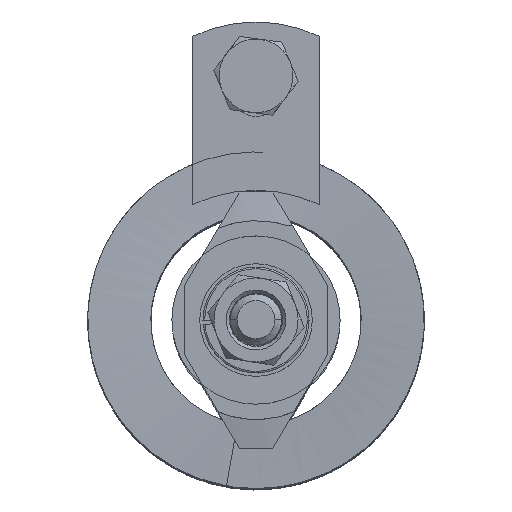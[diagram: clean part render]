
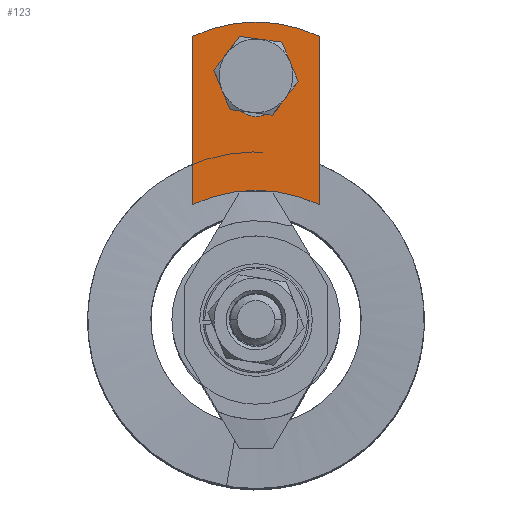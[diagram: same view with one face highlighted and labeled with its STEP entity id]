
A CAD part, top view. The second image highlights one B-rep face of the part: STEP entity #123.
In plain terms, the highlighted planar face has unit normal (0, 0, 1).
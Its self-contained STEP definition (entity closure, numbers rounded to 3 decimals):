
#123 = ADVANCED_FACE ( 'NONE', ( #3071, #3094 ), #67987, .T. ) ;
#639 = CARTESIAN_POINT ( 'NONE',  ( 16.905, -9.525, 0. ) ) ;
#677 = CARTESIAN_POINT ( 'NONE',  ( 10.914, 3.373, 0. ) ) ;
#768 = CARTESIAN_POINT ( 'NONE',  ( 14.287, 0., 0. ) ) ;
#781 = CARTESIAN_POINT ( 'NONE',  ( -6.35, 0., 0. ) ) ;
#1641 = VERTEX_POINT ( 'NONE', #639 ) ;
#1670 = VERTEX_POINT ( 'NONE', #677 ) ;
#1761 = VERTEX_POINT ( 'NONE', #768 ) ;
#1774 = VERTEX_POINT ( 'NONE', #781 ) ;
#3071 = FACE_BOUND ( 'NONE', #66176, .T. ) ;
#3094 = FACE_OUTER_BOUND ( 'NONE', #66241, .T. ) ;
#5561 = AXIS2_PLACEMENT_3D ( 'NONE', #31321, #31322, #31323 ) ;
#5563 = AXIS2_PLACEMENT_3D ( 'NONE', #31332, #31333, #31334 ) ;
#5565 = AXIS2_PLACEMENT_3D ( 'NONE', #31344, #31345, #31346 ) ;
#5570 = AXIS2_PLACEMENT_3D ( 'NONE', #31379, #31380, #31381 ) ;
#5571 = AXIS2_PLACEMENT_3D ( 'NONE', #31385, #31386, #31387 ) ;
#5572 = AXIS2_PLACEMENT_3D ( 'NONE', #31423, #31425, #31427 ) ;
#5573 = AXIS2_PLACEMENT_3D ( 'NONE', #31435, #31437, #31439 ) ;
#9263 = AXIS2_PLACEMENT_3D ( 'NONE', #67986, #67993, #67995 ) ;
#10862 = ORIENTED_EDGE ( 'NONE', *, *, #26784, .T. ) ;
#11024 = ORIENTED_EDGE ( 'NONE', *, *, #26847, .T. ) ;
#11030 = ORIENTED_EDGE ( 'NONE', *, *, #26802, .T. ) ;
#11034 = ORIENTED_EDGE ( 'NONE', *, *, #26844, .T. ) ;
#11052 = ORIENTED_EDGE ( 'NONE', *, *, #26833, .T. ) ;
#11058 = ORIENTED_EDGE ( 'NONE', *, *, #26793, .T. ) ;
#11059 = ORIENTED_EDGE ( 'NONE', *, *, #26828, .T. ) ;
#11182 = ORIENTED_EDGE ( 'NONE', *, *, #26830, .T. ) ;
#11208 = ORIENTED_EDGE ( 'NONE', *, *, #26842, .T. ) ;
#12042 = ORIENTED_EDGE ( 'NONE', *, *, #26826, .T. ) ;
#26784 = EDGE_CURVE ( 'NONE', #30011, #1774, #28621, .T. ) ;
#26793 = EDGE_CURVE ( 'NONE', #1670, #1761, #28632, .T. ) ;
#26802 = EDGE_CURVE ( 'NONE', #1641, #30029, #28645, .T. ) ;
#26826 = EDGE_CURVE ( 'NONE', #29982, #1670, #28673, .T. ) ;
#26828 = EDGE_CURVE ( 'NONE', #1761, #29988, #28682, .T. ) ;
#26830 = EDGE_CURVE ( 'NONE', #29988, #30004, #28686, .T. ) ;
#26833 = EDGE_CURVE ( 'NONE', #30004, #29982, #28688, .T. ) ;
#26835 = EDGE_CURVE ( 'NONE', #30051, #30011, #28693, .T. ) ;
#26842 = EDGE_CURVE ( 'NONE', #1774, #29983, #28680, .T. ) ;
#26844 = EDGE_CURVE ( 'NONE', #29983, #1641, #28698, .T. ) ;
#26847 = EDGE_CURVE ( 'NONE', #30029, #30051, #28702, .T. ) ;
#28621 = CIRCLE ( 'NONE', #5561, 22.225 ) ;
#28632 = CIRCLE ( 'NONE', #5563, 3.373 ) ;
#28645 = CIRCLE ( 'NONE', #5565, 22.225 ) ;
#28673 = LINE ( 'NONE', #31371, #28684 ) ;
#28680 = CIRCLE ( 'NONE', #5572, 22.225 ) ;
#28682 = CIRCLE ( 'NONE', #5570, 3.373 ) ;
#28684 = VECTOR ( 'NONE', #31364, 1000. ) ;
#28686 = LINE ( 'NONE', #31370, #28690 ) ;
#28688 = CIRCLE ( 'NONE', #5571, 3.373 ) ;
#28690 = VECTOR ( 'NONE', #31369, 1000. ) ;
#28693 = LINE ( 'NONE', #31376, #28696 ) ;
#28696 = VECTOR ( 'NONE', #31377, 1000. ) ;
#28698 = LINE ( 'NONE', #31396, #28705 ) ;
#28702 = CIRCLE ( 'NONE', #5573, 22.225 ) ;
#28705 = VECTOR ( 'NONE', #31399, 1000. ) ;
#29982 = VERTEX_POINT ( 'NONE', #51586 ) ;
#29983 = VERTEX_POINT ( 'NONE', #51588 ) ;
#29988 = VERTEX_POINT ( 'NONE', #51598 ) ;
#30004 = VERTEX_POINT ( 'NONE', #51630 ) ;
#30011 = VERTEX_POINT ( 'NONE', #51644 ) ;
#30029 = VERTEX_POINT ( 'NONE', #51680 ) ;
#30051 = VERTEX_POINT ( 'NONE', #51724 ) ;
#31321 = CARTESIAN_POINT ( 'NONE',  ( -28.575, 0., 0. ) ) ;
#31322 = DIRECTION ( 'NONE',  ( 0., 0., -1. ) ) ;
#31323 = DIRECTION ( 'NONE',  ( 1., 0., 0. ) ) ;
#31332 = CARTESIAN_POINT ( 'NONE',  ( 10.914, 0., 0. ) ) ;
#31333 = DIRECTION ( 'NONE',  ( 0., 0., -1. ) ) ;
#31334 = DIRECTION ( 'NONE',  ( 1., 0., 0. ) ) ;
#31344 = CARTESIAN_POINT ( 'NONE',  ( -3.175, 0., 0. ) ) ;
#31345 = DIRECTION ( 'NONE',  ( 0., 0., 1. ) ) ;
#31346 = DIRECTION ( 'NONE',  ( 1., 0., 0. ) ) ;
#31364 = DIRECTION ( 'NONE',  ( 1., 0., 0. ) ) ;
#31369 = DIRECTION ( 'NONE',  ( -1., 0., 0. ) ) ;
#31370 = CARTESIAN_POINT ( 'NONE',  ( 0., -3.373, 0. ) ) ;
#31371 = CARTESIAN_POINT ( 'NONE',  ( 0., 3.373, 0. ) ) ;
#31376 = CARTESIAN_POINT ( 'NONE',  ( 19.05, 9.525, 0. ) ) ;
#31377 = DIRECTION ( 'NONE',  ( -1., 0., 0. ) ) ;
#31379 = CARTESIAN_POINT ( 'NONE',  ( 10.914, 0., 0. ) ) ;
#31380 = DIRECTION ( 'NONE',  ( 0., 0., -1. ) ) ;
#31381 = DIRECTION ( 'NONE',  ( 1., 0., 0. ) ) ;
#31385 = CARTESIAN_POINT ( 'NONE',  ( 8.136, 0., 0. ) ) ;
#31386 = DIRECTION ( 'NONE',  ( 0., 0., -1. ) ) ;
#31387 = DIRECTION ( 'NONE',  ( 1., 0., 0. ) ) ;
#31396 = CARTESIAN_POINT ( 'NONE',  ( 19.05, -9.525, 0. ) ) ;
#31399 = DIRECTION ( 'NONE',  ( 1., 0., 0. ) ) ;
#31423 = CARTESIAN_POINT ( 'NONE',  ( -28.575, 0., 0. ) ) ;
#31425 = DIRECTION ( 'NONE',  ( 0., 0., -1. ) ) ;
#31427 = DIRECTION ( 'NONE',  ( 1., 0., 0. ) ) ;
#31435 = CARTESIAN_POINT ( 'NONE',  ( -3.175, 0., 0. ) ) ;
#31437 = DIRECTION ( 'NONE',  ( 0., 0., 1. ) ) ;
#31439 = DIRECTION ( 'NONE',  ( 1., 0., 0. ) ) ;
#48889 = ORIENTED_EDGE ( 'NONE', *, *, #26835, .T. ) ;
#51586 = CARTESIAN_POINT ( 'NONE',  ( 8.136, 3.373, 0. ) ) ;
#51588 = CARTESIAN_POINT ( 'NONE',  ( -8.495, -9.525, 0. ) ) ;
#51598 = CARTESIAN_POINT ( 'NONE',  ( 10.914, -3.373, 0. ) ) ;
#51630 = CARTESIAN_POINT ( 'NONE',  ( 8.136, -3.373, 0. ) ) ;
#51644 = CARTESIAN_POINT ( 'NONE',  ( -8.495, 9.525, 0. ) ) ;
#51680 = CARTESIAN_POINT ( 'NONE',  ( 19.05, 0., 0. ) ) ;
#51724 = CARTESIAN_POINT ( 'NONE',  ( 16.905, 9.525, 0. ) ) ;
#66176 = EDGE_LOOP ( 'NONE', ( #12042, #11058, #11059, #11182, #11052 ) ) ;
#66241 = EDGE_LOOP ( 'NONE', ( #48889, #10862, #11208, #11034, #11030, #11024 ) ) ;
#67986 = CARTESIAN_POINT ( 'NONE',  ( 0., 0., 0. ) ) ;
#67987 = PLANE ( 'NONE',  #9263 ) ;
#67993 = DIRECTION ( 'NONE',  ( 0., 0., 1. ) ) ;
#67995 = DIRECTION ( 'NONE',  ( 1., 0., 0. ) ) ;
